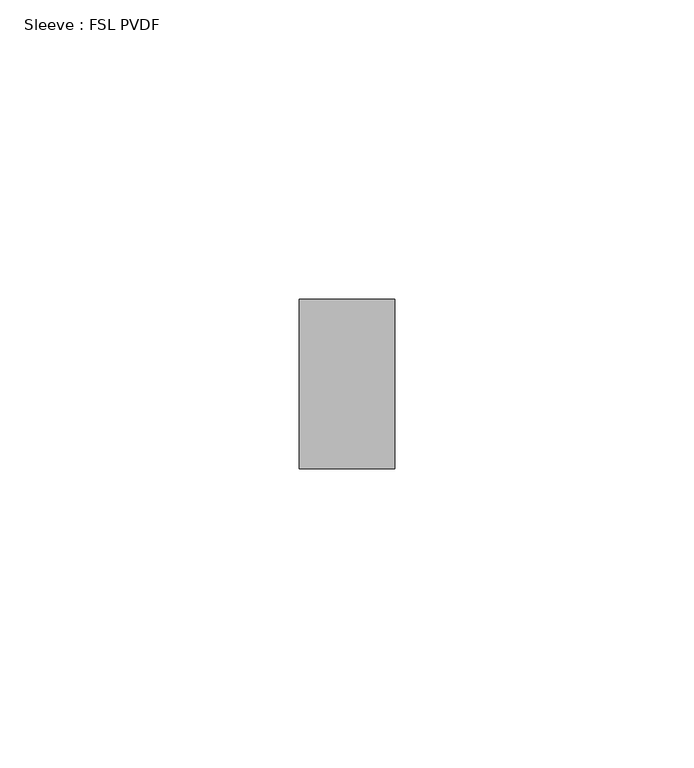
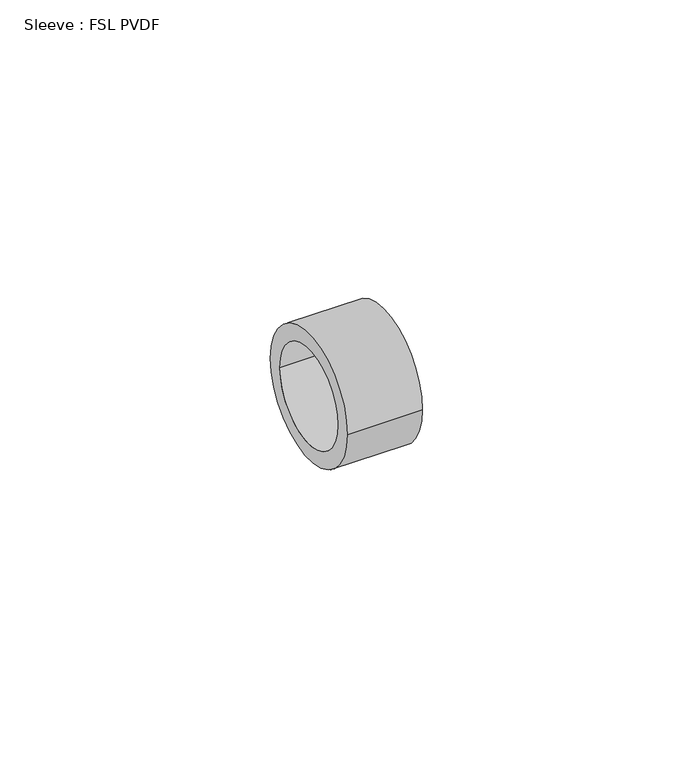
"""IFC4 building model written with IfcOpenShell, lengths in millimetres: pipe fitting geometry, Sleeve : FSL PVDF."""

from ifc_helpers import new_model, si_unit, point, frame, origin, origin_2d, place, context, project, spatial, circle_curve, trimmed, segment, composite_curve, outline, extrude, source, transform, mapped, element, save


def sleeve_fsl_pvdf_9ecdae78(model_context):
    return source(origin(), model_context, "Body", "SweptSolid", [
        extrude(outline(composite_curve([segment(trimmed(circle_curve(origin_2d(), 14.2), [point((-14.2, 0.0))], [point((14.2, 0.0))], False, "CARTESIAN"), True, "CONTINUOUS"), segment(trimmed(circle_curve(origin_2d(), 14.2), [point((14.2, 0.0))], [point((-14.2, 0.0))], False, "CARTESIAN"), True, "CONTINUOUS")], self_intersect=False), holes=[composite_curve([segment(trimmed(circle_curve(origin_2d(), 10.7), [point((-10.7, 0.0))], [point((10.7, 0.0))], True, "CARTESIAN"), True, "CONTINUOUS"), segment(trimmed(circle_curve(origin_2d(), 10.7), [point((10.7, 0.0))], [point((-10.7, 0.0))], True, "CARTESIAN"), True, "CONTINUOUS")], self_intersect=False)]), frame((0.0, 0.0, 0.0), z_axis=(1.0, 0.0, 0.0), x_axis=(0.0, 1.0, 0.0)), (0.0, 0.0, 1.0), 16.0),
    ])


if __name__ == "__main__":
    model = new_model("IFC4")
    model_context = context("Model", 3, world=origin())
    ifc_project = project(units=[si_unit("LENGTHUNIT", "METRE", prefix="MILLI")], contexts=[model_context])
    site = spatial("IfcSite", under=ifc_project)
    building = spatial("IfcBuilding", under=site)
    placement = place(None, origin())
    sleeve_fsl_pvdf_shape = sleeve_fsl_pvdf_9ecdae78(model_context)
    element("IfcPipeFitting", 1, ObjectType="Sleeve : FSL PVDF", at=placement, inside=building, context=model_context, shape_type="MappedRepresentation", body=[
        mapped(sleeve_fsl_pvdf_shape, transform((0.0, 0.0, 0.0), x_axis=(1.0, 0.0, 0.0), y_axis=(0.0, 1.0, 0.0), z_axis=(0.0, 0.0, 1.0))),
    ])
    save(model, "model.ifc")
